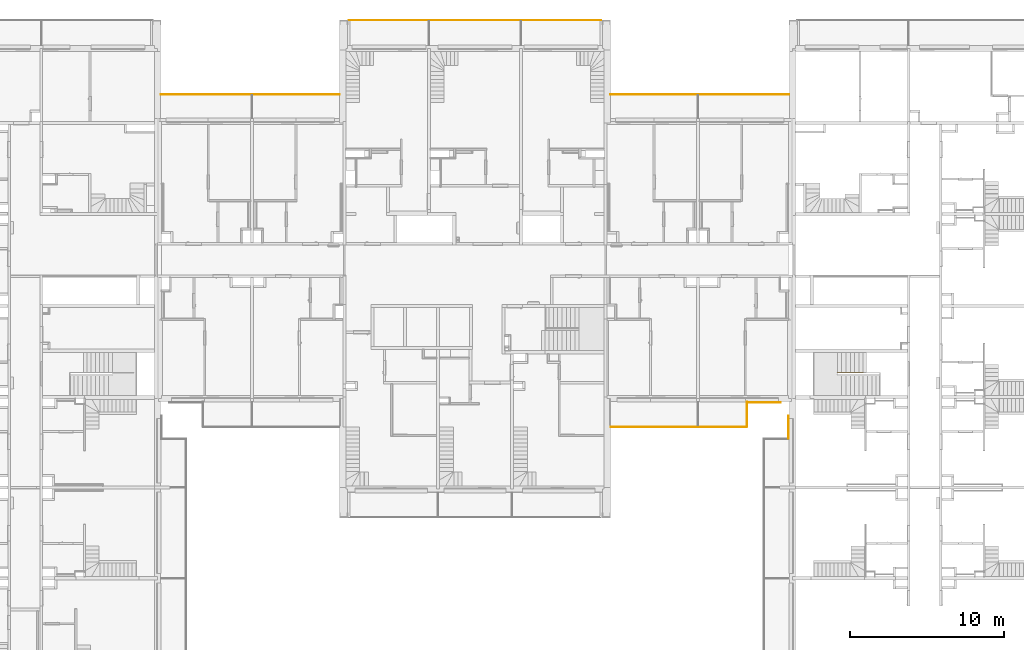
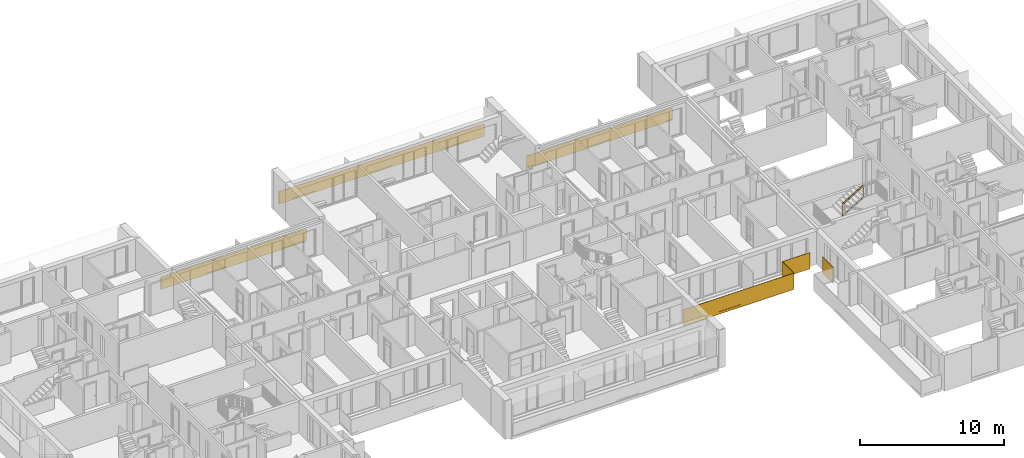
# One storey, part 8 of 61: 7 railings.
"""IFC2X3 building model written with IfcOpenShell, lengths in millimetres."""

from ifc_helpers import new_model, entity, si_unit, converted_unit, derived_unit, money_unit, direction, frame, origin_with_axes, place, context, subcontext, project, spatial, faceted_brep, material, material_list, type_object, element, save


model = new_model("IFC2X3")

# Units and contexts
model_context = context("Model", 3, precision=0.01, world=origin_with_axes(), true_north=direction((0.34421633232, 0.938890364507)))
body_context = subcontext(model_context, "Body", "Model", "MODEL_VIEW")
ifc_project = project(units=[si_unit("LENGTHUNIT", "METRE", prefix="MILLI"), si_unit("AREAUNIT", "SQUARE_METRE"), si_unit("VOLUMEUNIT", "CUBIC_METRE"), converted_unit("PLANEANGLEUNIT", "DEGREE", entity("IfcPlaneAngleMeasure", 0.0174532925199), si_unit("PLANEANGLEUNIT", "RADIAN"), dimensions=[0, 0, 0, 0, 0, 0, 0]), si_unit("SOLIDANGLEUNIT", "STERADIAN"), money_unit("USD"), converted_unit("TIMEUNIT", "Year", entity("IfcTimeMeasure", 31556926.0), si_unit("TIMEUNIT", "SECOND"), dimensions=[0, 0, 1, 0, 0, 0, 0]), si_unit("MASSUNIT", "GRAM", prefix="KILO"), si_unit("THERMODYNAMICTEMPERATUREUNIT", "DEGREE_CELSIUS"), si_unit("LUMINOUSINTENSITYUNIT", "LUMEN"), si_unit("ENERGYUNIT", "JOULE", prefix="MEGA"), derived_unit("THERMALCONDUCTANCEUNIT", [(si_unit("POWERUNIT", "WATT"), 1), (si_unit("LENGTHUNIT", "METRE"), -1), (si_unit("THERMODYNAMICTEMPERATUREUNIT", "KELVIN"), -1)]), derived_unit("SPECIFICHEATCAPACITYUNIT", [(si_unit("ENERGYUNIT", "JOULE"), 1), (si_unit("MASSUNIT", "GRAM", prefix="KILO"), -1), (si_unit("THERMODYNAMICTEMPERATUREUNIT", "KELVIN"), -1)]), derived_unit("MASSDENSITYUNIT", [(si_unit("MASSUNIT", "GRAM", prefix="KILO"), 1), (si_unit("VOLUMEUNIT", "CUBIC_METRE"), -1)])], contexts=[model_context])

# Site, building, storey
site_placement = place(None, origin_with_axes())
site = spatial("IfcSite", under=ifc_project, at=site_placement, Name="USTRONIE MORSKIE", CompositionType="ELEMENT")
building_placement = place(site_placement, origin_with_axes())
building = spatial("IfcBuilding", under=site, at=building_placement, Name="Budynek", CompositionType="ELEMENT")
storey_placement = place(building_placement, frame((0.0, 0.0, 13000.0), z_axis=(0.0, 0.0, 1.0), x_axis=(1.0, 0.0, 0.0)))
storey = spatial("IfcBuildingStorey", under=building, at=storey_placement, Name="PIĘTRO 4", CompositionType="ELEMENT", Elevation=13000.0)

# Railings
ifc_material_1 = material(Name="Szkło struktualne")
ifc_material_2 = material(Name="Profile aluminiowe")
ifc_material_list_1 = material_list([ifc_material_1, ifc_material_2, ifc_material_1, ifc_material_2])
railing_type = type_object("IfcRailingType", Name="Typ balustrady", PredefinedType="NOTDEFINED")
railing_1_placement = place(storey_placement, frame((396619.640549, 725001.198359, 0.0), z_axis=(0.0, 0.0, 1.0), x_axis=(-1.0, 0.0, 0.0)))
element("IfcRailing", 1, at=railing_1_placement, inside=storey, type_object=railing_type, material=ifc_material_list_1, Name="BL1", PredefinedType="NOTDEFINED", context=body_context, shape_type="Brep", body=[
    faceted_brep([(-29.9999996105, 40.0000002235, -300.00000039), (-29.9999996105, 40.0000002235, 1069.99999972), (-8878.27323778, 40.0000002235, 1069.99999972), (-8878.27323778, 40.0000002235, -300.00000039), (-29.9999996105, 59.9999997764, 1069.99999972), (-29.9999996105, 59.9999997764, -300.00000039), (-8898.27323733, 59.9999997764, 1069.99999972), (-8898.27323733, 59.9999997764, -300.00000039)], [[[0, 1, 2, 3]], [[4, 1, 0, 5]], [[2, 1, 4, 6]], [[3, 2, 6, 7]], [[5, 0, 3, 7]], [[6, 4, 5, 7]]]),
    faceted_brep([(-8888.27323738, 64.9999999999, -105.0), (-30.0, 64.9999999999, -105.0), (-30.0, 64.9999999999, -305.0), (-8888.27323738, 64.9999999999, -305.0), (-8888.27323738, 59.9999999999, -105.0), (-30.0, 59.9999999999, -105.0), (-30.0, 59.9999999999, -300.0), (-30.0, 40.0, -300.0), (-30.0, 40.0, -105.0), (-30.0, 35.0, -105.0), (-30.0, 35.0, -305.0), (-8888.27323738, 35.0, -305.0), (-8888.27323738, 35.0, -105.0), (-8888.27323738, 40.0, -105.0), (-8888.27323738, 40.0, -300.0), (-8888.27323738, 59.9999999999, -300.0)], [[[0, 1, 2, 3]], [[1, 0, 4, 5]], [[6, 7, 8, 9, 10, 2, 1, 5]], [[10, 11, 3, 2]], [[11, 12, 13, 14, 15, 4, 0, 3]], [[15, 6, 5, 4]], [[7, 6, 15, 14]], [[8, 7, 14, 13]], [[9, 8, 13, 12]], [[11, 10, 9, 12]]]),
    faceted_brep([(-8878.2732376, 40.000000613, -300.00000039), (-8878.2732376, 40.000000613, 1069.99999972), (-8878.2732376, -1590.00067728, 1069.99999972), (-8878.2732376, -1590.00067728, -300.00000039), (-8898.27323715, 60.0000001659, 1069.99999972), (-8898.27323715, 60.0000001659, -300.00000039), (-8898.27323715, -1590.00067728, 1069.99999972), (-8898.27323715, -1590.00067728, -300.00000039)], [[[0, 1, 2, 3]], [[4, 1, 0, 5]], [[2, 1, 4, 6]], [[3, 2, 6, 7]], [[5, 0, 3, 7]], [[6, 4, 5, 7]]]),
    faceted_brep([(-8903.27323738, -1590.00067759, -105.0), (-8903.27323738, 50.0, -105.0), (-8903.27323738, 50.0, -305.0), (-8903.27323738, -1590.00067759, -305.0), (-8898.27323738, -1590.00067759, -105.0), (-8898.27323738, 50.0, -105.0), (-8898.27323738, 50.0, -300.0), (-8878.27323738, 50.0, -300.0), (-8878.27323738, 50.0, -105.0), (-8873.27323738, 50.0, -105.0), (-8873.27323738, 50.0, -305.0), (-8873.27323738, -1590.00067759, -305.0), (-8873.27323738, -1590.00067759, -105.0), (-8878.27323738, -1590.00067759, -105.0), (-8878.27323738, -1590.00067759, -300.0), (-8898.27323738, -1590.00067759, -300.0)], [[[0, 1, 2, 3]], [[1, 0, 4, 5]], [[6, 7, 8, 9, 10, 2, 1, 5]], [[10, 11, 3, 2]], [[11, 12, 13, 14, 15, 4, 0, 3]], [[15, 6, 5, 4]], [[7, 6, 15, 14]], [[8, 7, 14, 13]], [[9, 8, 13, 12]], [[11, 10, 9, 12]]]),
])
ifc_material_list_2 = material_list([ifc_material_1, ifc_material_2])
railing_2_placement = place(storey_placement, frame((405457.913786, 726591.199036, 0.0), z_axis=(0.0, 0.0, 1.0), x_axis=(1.0, 0.0, 0.0)))
element("IfcRailing", 2, at=railing_2_placement, inside=storey, type_object=railing_type, material=ifc_material_list_2, Name="BL1", PredefinedType="NOTDEFINED", context=body_context, shape_type="Brep", body=[
    faceted_brep([(2259.98778246, -40.0, -300.0), (80.0, -40.0, -300.0), (80.0, -40.0, 1070.0), (2259.98778246, -40.0, 1070.0), (80.0, -59.9999999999, -300.0), (2259.98778246, -59.9999999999, -300.0), (80.0, -59.9999999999, 1070.0), (2259.98778246, -59.9999999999, 1070.0)], [[[0, 1, 2, 3]], [[4, 1, 0, 5]], [[6, 2, 1, 4]], [[3, 2, 6, 7]], [[0, 3, 7, 5]], [[6, 4, 5, 7]]]),
    faceted_brep([(80.0, -64.9999999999, -305.0), (2259.98778246, -64.9999999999, -305.0), (2259.98778246, -64.9999999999, -105.0), (80.0, -64.9999999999, -105.0), (80.0, -35.0, -305.0), (2259.98778246, -35.0, -305.0), (2259.98778246, -35.0, -105.0), (2259.98778246, -40.0, -105.0), (2259.98778246, -40.0, -300.0), (2259.98778246, -59.9999999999, -300.0), (2259.98778246, -59.9999999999, -105.0), (80.0, -59.9999999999, -105.0), (80.0, -40.0, -300.0), (80.0, -40.0, -105.0), (80.0, -35.0, -105.0), (80.0, -59.9999999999, -300.0)], [[[0, 1, 2, 3]], [[4, 5, 1, 0]], [[5, 6, 7, 8, 9, 10, 2, 1]], [[3, 2, 10, 11]], [[12, 13, 14, 4, 0, 3, 11, 15]], [[5, 4, 14, 6]], [[14, 13, 7, 6]], [[13, 12, 8, 7]], [[12, 15, 9, 8]], [[9, 15, 11, 10]]]),
])
railing_3_placement = place(storey_placement, frame((396617.920919, 746801.194135, 30.0), z_axis=(0.0, 0.0, 1.0), x_axis=(1.0, 0.0, 0.0)))
element("IfcRailing", 3, at=railing_3_placement, inside=storey, type_object=railing_type, material=ifc_material_list_2, Name="BL1", PredefinedType="NOTDEFINED", context=body_context, shape_type="Brep", body=[
    faceted_brep([(11650.0, -240.0, -100.0), (0.0, -240.0, -100.0), (0.0, -240.0, 950.0), (11650.0, -240.0, 950.0), (0.0, -260.0, -100.0), (11650.0, -260.0, -100.0), (0.0, -260.0, 950.0), (11650.0, -260.0, 950.0)], [[[0, 1, 2, 3]], [[4, 1, 0, 5]], [[6, 2, 1, 4]], [[3, 2, 6, 7]], [[0, 3, 7, 5]], [[6, 4, 5, 7]]]),
    faceted_brep([(11650.0, -265.0, -5.0), (0.0, -265.0, -5.0), (0.0, -265.0, -105.0), (11650.0, -265.0, -105.0), (11650.0, -260.0, -5.0), (0.0, -260.0, -5.0), (0.0, -260.0, -100.0), (0.0, -240.0, -100.0), (0.0, -240.0, -5.0), (0.0, -235.0, -5.0), (0.0, -235.0, -105.0), (11650.0, -235.0, -105.0), (11650.0, -235.0, -5.0), (11650.0, -240.0, -5.0), (11650.0, -240.0, -100.0), (11650.0, -260.0, -100.0)], [[[0, 1, 2, 3]], [[1, 0, 4, 5]], [[6, 7, 8, 9, 10, 2, 1, 5]], [[10, 11, 3, 2]], [[11, 12, 13, 14, 15, 4, 0, 3]], [[15, 6, 5, 4]], [[7, 6, 15, 14]], [[8, 7, 14, 13]], [[9, 8, 13, 12]], [[11, 10, 9, 12]]]),
])
railing_4_placement = place(storey_placement, frame((379997.772717, 751391.184464, 30.0), z_axis=(0.0, 0.0, 1.0), x_axis=(1.0, 0.0, 0.0)))
element("IfcRailing", 4, at=railing_4_placement, inside=storey, type_object=railing_type, material=ifc_material_list_2, Name="BL1", PredefinedType="NOTDEFINED", context=body_context, shape_type="Brep", body=[
    faceted_brep([(16035.1447373, 15.0002956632, -100.0), (-394.85486771, 14.862074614, -100.0), (-394.85486771, 14.862074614, 950.0), (16035.1447373, 15.0002956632, 950.0), (-394.854699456, -5.13792538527, -100.0), (16035.1449055, -4.99970433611, -100.0), (-394.854699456, -5.13792538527, 950.0), (16035.1449055, -4.99970433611, 950.0)], [[[0, 1, 2, 3]], [[4, 1, 0, 5]], [[6, 2, 1, 4]], [[3, 2, 6, 7]], [[0, 3, 7, 5]], [[6, 4, 5, 7]]]),
    faceted_brep([(16035.1449476, -9.999704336, -5.0), (-394.854657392, -10.1379253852, -5.0), (-394.854657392, -10.1379253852, -105.0), (16035.1449476, -9.999704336, -105.0), (16035.1449055, -4.99970433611, -5.0), (-394.854699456, -5.13792538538, -5.0), (-394.854699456, -5.13792538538, -100.0), (-394.85486771, 14.8620746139, -100.0), (-394.85486771, 14.8620746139, -5.0), (-394.854909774, 19.8620746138, -5.0), (-394.854909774, 19.8620746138, -105.0), (16035.1446952, 20.000295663, -105.0), (16035.1446952, 20.000295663, -5.0), (16035.1447373, 15.0002956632, -5.0), (16035.1447373, 15.0002956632, -100.0), (16035.1449055, -4.99970433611, -100.0)], [[[0, 1, 2, 3]], [[1, 0, 4, 5]], [[6, 7, 8, 9, 10, 2, 1, 5]], [[10, 11, 3, 2]], [[11, 12, 13, 14, 15, 4, 0, 3]], [[15, 6, 5, 4]], [[7, 6, 15, 14]], [[8, 7, 14, 13]], [[9, 8, 13, 12]], [[11, 10, 9, 12]]]),
])
railing_5_placement = place(storey_placement, frame((367367.920919, 746801.194135, 30.0), z_axis=(0.0, 0.0, 1.0), x_axis=(1.0, 0.0, 0.0)))
element("IfcRailing", 5, at=railing_5_placement, inside=storey, type_object=railing_type, material=ifc_material_list_2, Name="BL1", PredefinedType="NOTDEFINED", context=body_context, shape_type="Brep", body=[
    faceted_brep([(11650.0, -240.0, -100.0), (0.0, -240.0, -100.0), (0.0, -240.0, 950.0), (11650.0, -240.0, 950.0), (0.0, -260.0, -100.0), (11650.0, -260.0, -100.0), (0.0, -260.0, 950.0), (11650.0, -260.0, 950.0)], [[[0, 1, 2, 3]], [[4, 1, 0, 5]], [[6, 2, 1, 4]], [[3, 2, 6, 7]], [[0, 3, 7, 5]], [[6, 4, 5, 7]]]),
    faceted_brep([(11650.0, -265.0, -5.0), (0.0, -265.0, -5.0), (0.0, -265.0, -105.0), (11650.0, -265.0, -105.0), (11650.0, -260.0, -5.0), (0.0, -260.0, -5.0), (0.0, -260.0, -100.0), (0.0, -240.0, -100.0), (0.0, -240.0, -5.0), (0.0, -235.0, -5.0), (0.0, -235.0, -105.0), (11650.0, -235.0, -105.0), (11650.0, -235.0, -5.0), (11650.0, -240.0, -5.0), (11650.0, -240.0, -100.0), (11650.0, -260.0, -100.0)], [[[0, 1, 2, 3]], [[1, 0, 4, 5]], [[6, 7, 8, 9, 10, 2, 1, 5]], [[10, 11, 3, 2]], [[11, 12, 13, 14, 15, 4, 0, 3]], [[15, 6, 5, 4]], [[7, 6, 15, 14]], [[8, 7, 14, 13]], [[9, 8, 13, 12]], [[11, 10, 9, 12]]]),
])
railing_6_placement = place(storey_placement, frame((408257.883673, 724111.198359, 0.0), z_axis=(0.0, 0.0, 1.0), x_axis=(1.0, 0.0, 0.0)))
element("IfcRailing", 6, at=railing_6_placement, inside=storey, type_object=railing_type, material=ifc_material_list_2, Name="BL1", PredefinedType="NOTDEFINED", context=body_context, shape_type="Brep", body=[
    faceted_brep([(-60.0, 1550.0, -300.0), (-60.0, 80.0, -300.0), (-60.0, 80.0, 1070.0), (-60.0, 1550.0, 1070.0), (-40.0, 80.0, -300.0), (-40.0, 1550.0, -300.0), (-40.0, 80.0, 1070.0), (-40.0, 1550.0, 1070.0)], [[[0, 1, 2, 3]], [[4, 1, 0, 5]], [[6, 2, 1, 4]], [[3, 2, 6, 7]], [[0, 3, 7, 5]], [[6, 4, 5, 7]]]),
    faceted_brep([(-35.0, 1550.0, -105.0), (-35.0, 80.0, -105.0), (-35.0, 80.0, -305.0), (-35.0, 1550.0, -305.0), (-40.0, 1550.0, -105.0), (-40.0, 80.0, -105.0), (-40.0, 80.0, -300.0), (-60.0, 80.0, -300.0), (-60.0, 80.0, -105.0), (-65.0, 80.0, -105.0), (-65.0, 80.0, -305.0), (-65.0, 1550.0, -305.0), (-65.0, 1550.0, -105.0), (-60.0, 1550.0, -105.0), (-60.0, 1550.0, -300.0), (-40.0, 1550.0, -300.0)], [[[0, 1, 2, 3]], [[1, 0, 4, 5]], [[6, 7, 8, 9, 10, 2, 1, 5]], [[10, 11, 3, 2]], [[11, 12, 13, 14, 15, 4, 0, 3]], [[15, 6, 5, 4]], [[7, 6, 15, 14]], [[8, 7, 14, 13]], [[9, 8, 13, 12]], [[11, 10, 9, 12]]]),
])
ifc_material_3 = material(Name="Stal konstrukcyjna")
ifc_material_4 = material(Name="Stal nierdzewna")
ifc_material_list_3 = material_list([ifc_material_3, ifc_material_3, ifc_material_4, ifc_material_4, ifc_material_4, ifc_material_3, ifc_material_3, ifc_material_3, ifc_material_3, ifc_material_3, ifc_material_3, ifc_material_3, ifc_material_3, ifc_material_3, ifc_material_3, ifc_material_3, ifc_material_3, ifc_material_3])
railing_7_placement = place(storey_placement, frame((411387.920919, 728501.199022, 1840.88235294), z_axis=(0.0, 0.0, 1.0), x_axis=(1.0, 0.0, 0.0)))
element("IfcRailing", 7, at=railing_7_placement, inside=storey, type_object=railing_type, material=ifc_material_list_3, Name="BL1", PredefinedType="NOTDEFINED", context=body_context, shape_type="Brep", body=[
    faceted_brep([(9.99999999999, -45.0, -144.023109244), (9.99999999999, -25.0, -144.023109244), (9.99999999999, -25.0, 755.976890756), (9.99999999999, -45.0, 755.976890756), (-9.99999999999, -45.0, -155.976890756), (-9.99999999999, -25.0, -155.976890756), (5.0, -40.0, -147.011554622), (5.0, -30.0, -147.011554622), (-5.0, -30.0, -152.988445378), (-5.0, -40.0, -152.988445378), (-9.99999999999, -25.0, 744.023109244), (-9.99999999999, -45.0, 744.023109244), (5.0, -40.0, 752.988445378), (-5.0, -40.0, 747.011554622), (-5.0, -30.0, 747.011554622), (5.0, -30.0, 752.988445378)], [[[0, 1, 2, 3]], [[0, 4, 5, 1], [6, 7, 8, 9]], [[1, 5, 10, 2]], [[3, 2, 10, 11], [12, 13, 14, 15]], [[4, 0, 3, 11]], [[5, 4, 11, 10]], [[7, 6, 12, 15]], [[8, 7, 15, 14]], [[9, 8, 14, 13]], [[6, 9, 13, 12]]]),
    faceted_brep([(1690.0, -45.0, 860.094537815), (1690.0, -25.0, 860.094537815), (1690.0, -25.0, 1760.09453782), (1690.0, -45.0, 1760.09453782), (1670.0, -45.0, 848.140756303), (1670.0, -25.0, 848.140756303), (1685.0, -40.0, 857.106092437), (1685.0, -30.0, 857.106092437), (1675.0, -30.0, 851.129201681), (1675.0, -40.0, 851.129201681), (1670.0, -25.0, 1748.1407563), (1670.0, -45.0, 1748.1407563), (1685.0, -40.0, 1757.10609244), (1675.0, -40.0, 1751.12920168), (1675.0, -30.0, 1751.12920168), (1685.0, -30.0, 1757.10609244)], [[[0, 1, 2, 3]], [[0, 4, 5, 1], [6, 7, 8, 9]], [[1, 5, 10, 2]], [[3, 2, 10, 11], [12, 13, 14, 15]], [[4, 0, 3, 11]], [[5, 4, 11, 10]], [[7, 6, 12, 15]], [[8, 7, 15, 14]], [[9, 8, 14, 13]], [[6, 9, 13, 12]]]),
    faceted_brep([(0.0, -59.9999999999, 900.0), (12.8259116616, -59.9999999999, 878.540829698), (1692.82591166, -59.9999999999, 1882.65847676), (1680.0, -59.9999999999, 1904.11764706), (0.0, -9.99999999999, 900.0), (12.8259116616, -9.99999999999, 878.540829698), (12.8259116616, -25.0, 878.540829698), (10.2607293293, -25.0, 882.832663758), (10.2607293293, -45.0, 882.832663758), (12.8259116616, -45.0, 878.540829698), (1692.82591166, -45.0, 1882.65847676), (1690.26072933, -45.0, 1886.95031082), (1690.26072933, -25.0, 1886.95031082), (1692.82591166, -25.0, 1882.65847676), (1692.82591166, -9.99999999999, 1882.65847676), (1680.0, -9.99999999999, 1904.11764706)], [[[0, 1, 2, 3]], [[0, 4, 5, 6, 7, 8, 9, 1]], [[1, 9, 10, 2]], [[3, 2, 10, 11, 12, 13, 14, 15]], [[4, 0, 3, 15]], [[5, 4, 15, 14]], [[6, 5, 14, 13]], [[7, 6, 13, 12]], [[8, 7, 12, 11]], [[9, 8, 11, 10]]]),
    faceted_brep([(12.8259116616, -45.0, 878.540829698), (12.8259116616, -25.0, 878.540829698), (1692.82591166, -25.0, 1882.65847676), (1692.82591166, -45.0, 1882.65847676), (10.2607293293, -45.0, 882.832663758), (10.2607293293, -25.0, 882.832663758), (1690.26072933, -25.0, 1886.95031082), (1690.26072933, -45.0, 1886.95031082)], [[[0, 1, 2, 3]], [[0, 4, 5, 1]], [[1, 5, 6, 2]], [[3, 2, 6, 7]], [[4, 0, 3, 7]], [[5, 4, 7, 6]]]),
    faceted_brep([(45.4183406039, -45.0, 776.526745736), (45.4183406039, -25.0, 776.526745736), (45.4183406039, -25.0, 898.020968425), (45.4183406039, -45.0, 898.020968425), (40.4183406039, -45.0, 776.526745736), (40.4183406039, -25.0, 776.526745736), (40.4183406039, -25.0, 896.526745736), (42.9183406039, -25.0, 898.020968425), (42.9183406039, -45.0, 898.020968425), (40.4183406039, -45.0, 896.526745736)], [[[0, 1, 2, 3]], [[0, 4, 5, 1]], [[1, 5, 6, 7, 2]], [[3, 2, 7, 8]], [[4, 0, 3, 8, 9]], [[5, 4, 9, 6]], [[7, 6, 9, 8]]]),
    faceted_brep([(1639.5816594, -45.0, 1729.34074615), (1639.5816594, -25.0, 1729.34074615), (1639.5816594, -25.0, 1850.83496884), (1639.5816594, -45.0, 1850.83496884), (1634.5816594, -45.0, 1729.34074615), (1634.5816594, -25.0, 1729.34074615), (1634.5816594, -25.0, 1849.34074615), (1637.0816594, -25.0, 1850.83496884), (1637.0816594, -45.0, 1850.83496884), (1634.5816594, -45.0, 1849.34074615)], [[[0, 1, 2, 3]], [[0, 4, 5, 1]], [[1, 5, 6, 7, 2]], [[3, 2, 7, 8]], [[4, 0, 3, 8, 9]], [[5, 4, 9, 6]], [[7, 6, 9, 8]]]),
    faceted_brep([(0.0, -54.9999999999, 750.0), (2.56518233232, -54.9999999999, 745.70816594), (1682.56518233, -54.9999999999, 1749.825813), (1680.0, -54.9999999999, 1754.11764706), (0.0, -15.0, 750.0), (2.56518233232, -15.0, 745.70816594), (1682.56518233, -15.0, 1749.825813), (1680.0, -15.0, 1754.11764706)], [[[0, 1, 2, 3]], [[0, 4, 5, 1]], [[1, 5, 6, 2]], [[3, 2, 6, 7]], [[4, 0, 3, 7]], [[5, 4, 7, 6]]]),
    faceted_brep([(-1.28259116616, -54.9999999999, -157.85408297), (1.28259116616, -54.9999999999, -162.14591703), (1681.28259117, -54.9999999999, 841.971730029), (1678.71740883, -54.9999999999, 846.263564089), (-1.28259116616, -15.0, -157.85408297), (1.28259116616, -15.0, -162.14591703), (1681.28259117, -15.0, 841.971730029), (1678.71740883, -15.0, 846.263564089)], [[[0, 1, 2, 3]], [[0, 4, 5, 1]], [[1, 5, 6, 2]], [[3, 2, 6, 7]], [[4, 0, 3, 7]], [[5, 4, 7, 6]]]),
    faceted_brep([(122.5, -47.5, -81.7830882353), (122.5, -22.4999999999, -81.7830882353), (122.5, -22.4999999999, 818.216911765), (122.5, -47.5, 818.216911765), (117.5, -47.5, -84.7715336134), (117.5, -22.4999999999, -84.7715336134), (117.5, -22.4999999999, 815.228466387), (117.5, -47.5, 815.228466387)], [[[0, 1, 2, 3]], [[0, 4, 5, 1]], [[1, 5, 6, 2]], [[3, 2, 6, 7]], [[4, 0, 3, 7]], [[5, 4, 7, 6]]]),
    faceted_brep([(242.5, -47.5, -10.0603991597), (242.5, -22.4999999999, -10.0603991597), (242.5, -22.4999999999, 889.93960084), (242.5, -47.5, 889.93960084), (237.5, -47.5, -13.0488445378), (237.5, -22.4999999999, -13.0488445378), (237.5, -22.4999999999, 886.951155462), (237.5, -47.5, 886.951155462)], [[[0, 1, 2, 3]], [[0, 4, 5, 1]], [[1, 5, 6, 2]], [[3, 2, 6, 7]], [[4, 0, 3, 7]], [[5, 4, 7, 6]]]),
    faceted_brep([(362.5, -47.5, 61.662289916), (362.5, -22.4999999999, 61.662289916), (362.5, -22.4999999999, 961.662289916), (362.5, -47.5, 961.662289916), (357.5, -47.5, 58.6738445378), (357.5, -22.4999999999, 58.6738445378), (357.5, -22.4999999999, 958.673844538), (357.5, -47.5, 958.673844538)], [[[0, 1, 2, 3]], [[0, 4, 5, 1]], [[1, 5, 6, 2]], [[3, 2, 6, 7]], [[4, 0, 3, 7]], [[5, 4, 7, 6]]]),
    faceted_brep([(482.5, -47.5, 133.384978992), (482.5, -22.4999999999, 133.384978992), (482.5, -22.4999999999, 1033.38497899), (482.5, -47.5, 1033.38497899), (477.5, -47.5, 130.396533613), (477.5, -22.4999999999, 130.396533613), (477.5, -22.4999999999, 1030.39653361), (477.5, -47.5, 1030.39653361)], [[[0, 1, 2, 3]], [[0, 4, 5, 1]], [[1, 5, 6, 2]], [[3, 2, 6, 7]], [[4, 0, 3, 7]], [[5, 4, 7, 6]]]),
    faceted_brep([(602.5, -47.5, 205.107668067), (602.5, -22.4999999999, 205.107668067), (602.5, -22.4999999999, 1105.10766807), (602.5, -47.5, 1105.10766807), (597.5, -47.5, 202.119222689), (597.5, -22.4999999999, 202.119222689), (597.5, -22.4999999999, 1102.11922269), (597.5, -47.5, 1102.11922269)], [[[0, 1, 2, 3]], [[0, 4, 5, 1]], [[1, 5, 6, 2]], [[3, 2, 6, 7]], [[4, 0, 3, 7]], [[5, 4, 7, 6]]]),
    faceted_brep([(722.5, -47.5, 276.830357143), (722.5, -22.4999999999, 276.830357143), (722.5, -22.4999999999, 1176.83035714), (722.5, -47.5, 1176.83035714), (717.5, -47.5, 273.841911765), (717.5, -22.4999999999, 273.841911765), (717.5, -22.4999999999, 1173.84191176), (717.5, -47.5, 1173.84191176)], [[[0, 1, 2, 3]], [[0, 4, 5, 1]], [[1, 5, 6, 2]], [[3, 2, 6, 7]], [[4, 0, 3, 7]], [[5, 4, 7, 6]]]),
    faceted_brep([(842.5, -47.5, 348.553046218), (842.5, -22.4999999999, 348.553046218), (842.5, -22.4999999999, 1248.55304622), (842.5, -47.5, 1248.55304622), (837.5, -47.5, 345.56460084), (837.5, -22.4999999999, 345.56460084), (837.5, -22.4999999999, 1245.56460084), (837.5, -47.5, 1245.56460084)], [[[0, 1, 2, 3]], [[0, 4, 5, 1]], [[1, 5, 6, 2]], [[3, 2, 6, 7]], [[4, 0, 3, 7]], [[5, 4, 7, 6]]]),
    faceted_brep([(962.5, -47.5, 420.275735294), (962.5, -22.4999999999, 420.275735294), (962.5, -22.4999999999, 1320.27573529), (962.5, -47.5, 1320.27573529), (957.5, -47.5, 417.287289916), (957.5, -22.4999999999, 417.287289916), (957.5, -22.4999999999, 1317.28728992), (957.5, -47.5, 1317.28728992)], [[[0, 1, 2, 3]], [[0, 4, 5, 1]], [[1, 5, 6, 2]], [[3, 2, 6, 7]], [[4, 0, 3, 7]], [[5, 4, 7, 6]]]),
    faceted_brep([(1082.5, -47.5, 491.99842437), (1082.5, -22.4999999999, 491.99842437), (1082.5, -22.4999999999, 1391.99842437), (1082.5, -47.5, 1391.99842437), (1077.5, -47.5, 489.009978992), (1077.5, -22.4999999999, 489.009978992), (1077.5, -22.4999999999, 1389.00997899), (1077.5, -47.5, 1389.00997899)], [[[0, 1, 2, 3]], [[0, 4, 5, 1]], [[1, 5, 6, 2]], [[3, 2, 6, 7]], [[4, 0, 3, 7]], [[5, 4, 7, 6]]]),
    faceted_brep([(1202.5, -47.5, 563.721113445), (1202.5, -22.4999999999, 563.721113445), (1202.5, -22.4999999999, 1463.72111345), (1202.5, -47.5, 1463.72111345), (1197.5, -47.5, 560.732668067), (1197.5, -22.4999999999, 560.732668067), (1197.5, -22.4999999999, 1460.73266807), (1197.5, -47.5, 1460.73266807)], [[[0, 1, 2, 3]], [[0, 4, 5, 1]], [[1, 5, 6, 2]], [[3, 2, 6, 7]], [[4, 0, 3, 7]], [[5, 4, 7, 6]]]),
    faceted_brep([(1322.5, -47.5, 635.443802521), (1322.5, -22.4999999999, 635.443802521), (1322.5, -22.4999999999, 1535.44380252), (1322.5, -47.5, 1535.44380252), (1317.5, -47.5, 632.455357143), (1317.5, -22.4999999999, 632.455357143), (1317.5, -22.4999999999, 1532.45535714), (1317.5, -47.5, 1532.45535714)], [[[0, 1, 2, 3]], [[0, 4, 5, 1]], [[1, 5, 6, 2]], [[3, 2, 6, 7]], [[4, 0, 3, 7]], [[5, 4, 7, 6]]]),
    faceted_brep([(1442.5, -47.5, 707.166491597), (1442.5, -22.4999999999, 707.166491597), (1442.5, -22.4999999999, 1607.1664916), (1442.5, -47.5, 1607.1664916), (1437.5, -47.5, 704.178046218), (1437.5, -22.4999999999, 704.178046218), (1437.5, -22.4999999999, 1604.17804622), (1437.5, -47.5, 1604.17804622)], [[[0, 1, 2, 3]], [[0, 4, 5, 1]], [[1, 5, 6, 2]], [[3, 2, 6, 7]], [[4, 0, 3, 7]], [[5, 4, 7, 6]]]),
    faceted_brep([(1562.5, -47.5, 778.889180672), (1562.5, -22.4999999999, 778.889180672), (1562.5, -22.4999999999, 1678.88918067), (1562.5, -47.5, 1678.88918067), (1557.5, -47.5, 775.900735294), (1557.5, -22.4999999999, 775.900735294), (1557.5, -22.4999999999, 1675.90073529), (1557.5, -47.5, 1675.90073529)], [[[0, 1, 2, 3]], [[0, 4, 5, 1]], [[1, 5, 6, 2]], [[3, 2, 6, 7]], [[4, 0, 3, 7]], [[5, 4, 7, 6]]]),
])

save(model, "model.ifc")
